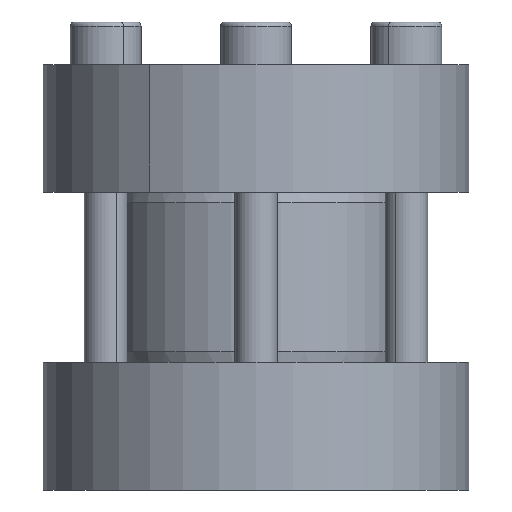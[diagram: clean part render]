
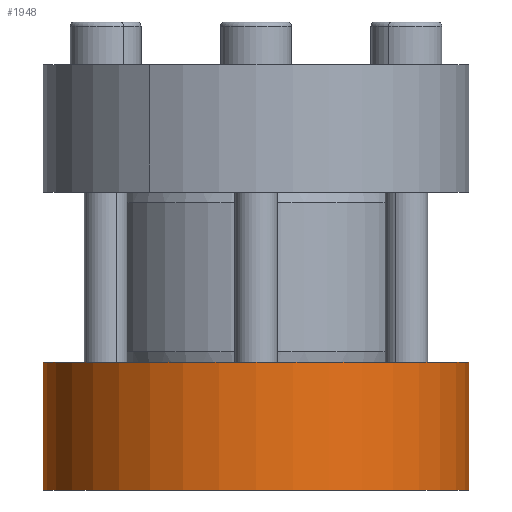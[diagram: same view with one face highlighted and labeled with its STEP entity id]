
A CAD part, front view. The second image highlights one B-rep face of the part: STEP entity #1948.
In plain terms, the highlighted cylindrical face has radius 30 mm (diameter 60 mm), a partial arc.
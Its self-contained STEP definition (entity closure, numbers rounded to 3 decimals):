
#1463 = CIRCLE ( 'NONE', #3863, 30. ) ;
#1502 = EDGE_CURVE ( 'NONE', #8374, #6463, #1463, .T. ) ;
#1549 = LINE ( 'NONE', #3966, #6738 ) ;
#1948 = ADVANCED_FACE ( 'NONE', ( #2647 ), #3654, .T. ) ;
#2201 = ORIENTED_EDGE ( 'NONE', *, *, #1502, .F. ) ;
#2214 = EDGE_CURVE ( 'NONE', #6463, #6577, #9037, .T. ) ;
#2506 = DIRECTION ( 'NONE',  ( 0., 0., -1. ) ) ;
#2647 = FACE_OUTER_BOUND ( 'NONE', #4492, .T. ) ;
#2951 = DIRECTION ( 'NONE',  ( 0., 0., -1. ) ) ;
#3014 = DIRECTION ( 'NONE',  ( -1., 0., 0. ) ) ;
#3217 = ORIENTED_EDGE ( 'NONE', *, *, #8129, .T. ) ;
#3498 = DIRECTION ( 'NONE',  ( 0., 0., 1. ) ) ;
#3592 = CARTESIAN_POINT ( 'NONE',  ( 0., 0., 16.49 ) ) ;
#3617 = CARTESIAN_POINT ( 'NONE',  ( -30., 0., 16.49 ) ) ;
#3654 = CYLINDRICAL_SURFACE ( 'NONE', #6823, 30. ) ;
#3707 = CARTESIAN_POINT ( 'NONE',  ( 0., 0., 16.49 ) ) ;
#3863 = AXIS2_PLACEMENT_3D ( 'NONE', #3592, #8611, #4316 ) ;
#3916 = CARTESIAN_POINT ( 'NONE',  ( -30., 0., -1.51 ) ) ;
#3966 = CARTESIAN_POINT ( 'NONE',  ( -30., 0., 16.49 ) ) ;
#4222 = EDGE_CURVE ( 'NONE', #8697, #6577, #4353, .T. ) ;
#4316 = DIRECTION ( 'NONE',  ( 1., 0., 0. ) ) ;
#4353 = CIRCLE ( 'NONE', #9139, 30. ) ;
#4492 = EDGE_LOOP ( 'NONE', ( #5297, #2201, #3217, #9087 ) ) ;
#5228 = VECTOR ( 'NONE', #2506, 1000. ) ;
#5297 = ORIENTED_EDGE ( 'NONE', *, *, #2214, .F. ) ;
#5392 = CARTESIAN_POINT ( 'NONE',  ( 30., 0., 16.49 ) ) ;
#6212 = CARTESIAN_POINT ( 'NONE',  ( 30., 0., -1.51 ) ) ;
#6463 = VERTEX_POINT ( 'NONE', #5392 ) ;
#6577 = VERTEX_POINT ( 'NONE', #6212 ) ;
#6738 = VECTOR ( 'NONE', #8275, 1000. ) ;
#6821 = CARTESIAN_POINT ( 'NONE',  ( 30., 0., 16.49 ) ) ;
#6823 = AXIS2_PLACEMENT_3D ( 'NONE', #3707, #2951, #3014 ) ;
#7807 = CARTESIAN_POINT ( 'NONE',  ( 0., 0., -1.51 ) ) ;
#8129 = EDGE_CURVE ( 'NONE', #8374, #8697, #1549, .T. ) ;
#8275 = DIRECTION ( 'NONE',  ( 0., 0., -1. ) ) ;
#8374 = VERTEX_POINT ( 'NONE', #3617 ) ;
#8517 = DIRECTION ( 'NONE',  ( 1., 0., 0. ) ) ;
#8611 = DIRECTION ( 'NONE',  ( 0., 0., 1. ) ) ;
#8697 = VERTEX_POINT ( 'NONE', #3916 ) ;
#9037 = LINE ( 'NONE', #6821, #5228 ) ;
#9087 = ORIENTED_EDGE ( 'NONE', *, *, #4222, .T. ) ;
#9139 = AXIS2_PLACEMENT_3D ( 'NONE', #7807, #3498, #8517 ) ;
